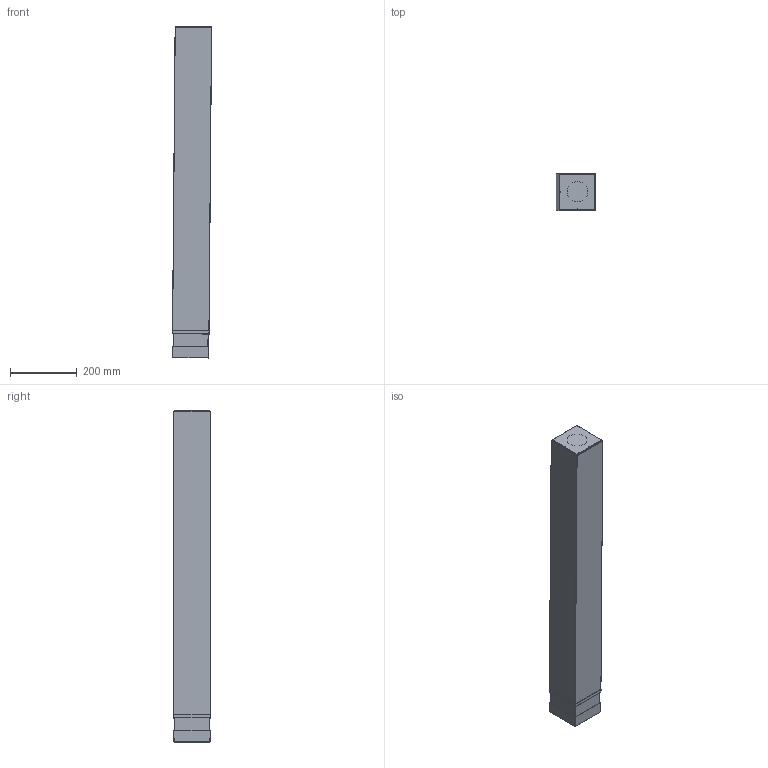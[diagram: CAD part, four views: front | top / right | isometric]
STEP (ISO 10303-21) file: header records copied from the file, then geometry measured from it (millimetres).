
FILE_DESCRIPTION((''),'2;1');
FILE_NAME('TOK_QL_H1000_ASM','2025-07-30T11:44:24',('Manenti'),(''),'CREO PARAMETRIC BY PTC INC, 2025010','CREO PARAMETRIC BY PTC INC, 2025010','');
FILE_SCHEMA(('CONFIG_CONTROL_DESIGN'));
Length unit declared in the file: millimetre
Products named in the file (2): TOK-Q_ASM_1_ASM; TOK_QL_H1000_ASM
Assembly tree (1 placements, depth 2):
  TOK_QL_H1000_ASM
    TOK-Q_ASM_1_ASM
Bounding box: 118.25 x 110.34 x 998.08 mm (x, y, z)
Surface area: 541446.7 mm2 (no closed solid volume)
Topology: 0 solids, 22 shells, 454 faces, 1148 edges, 652 vertices
Faces by surface type: cylinder 214, plane 106, sphere 66, bspline 60, cone 4, torus 4
Entity records: 18531 total; most frequent: CARTESIAN_POINT 8566, DIRECTION 2062, ORIENTED_EDGE 1940, EDGE_CURVE 1086, AXIS2_PLACEMENT_3D 762, VERTEX_POINT 652, VECTOR 538, LINE 538
